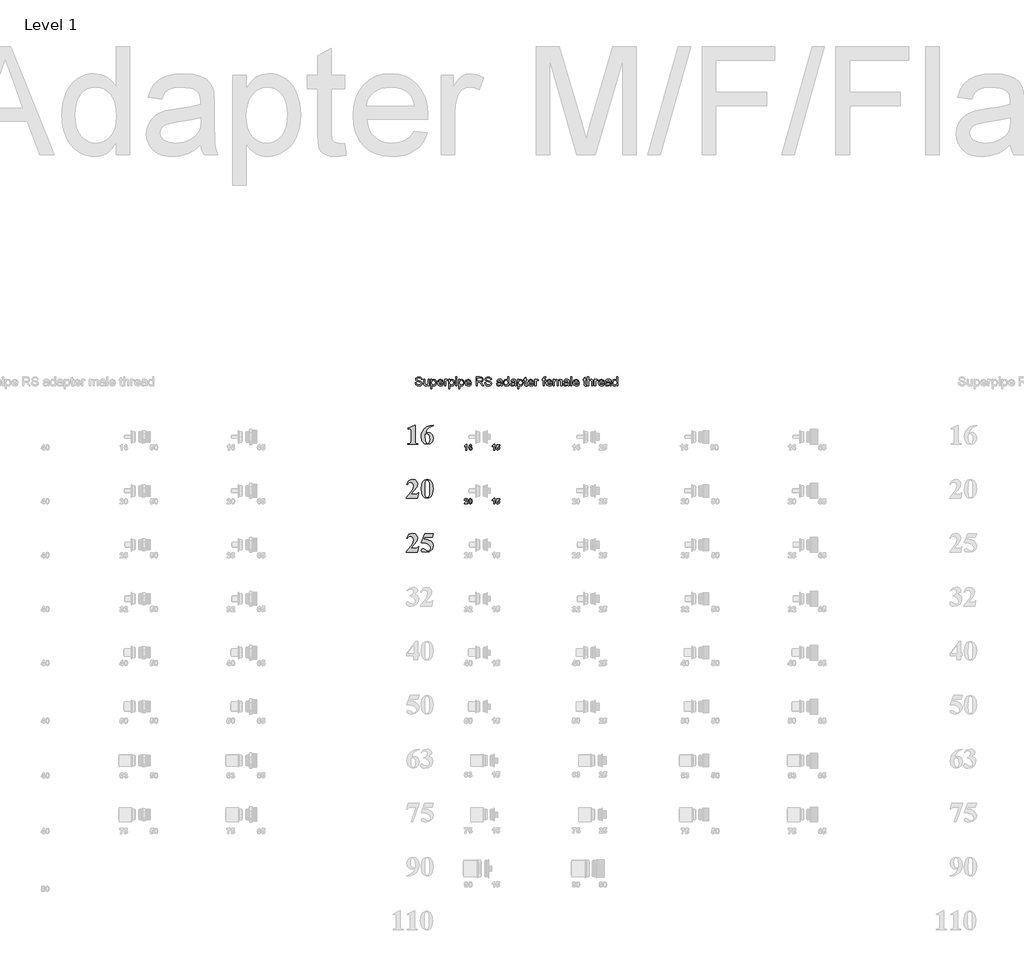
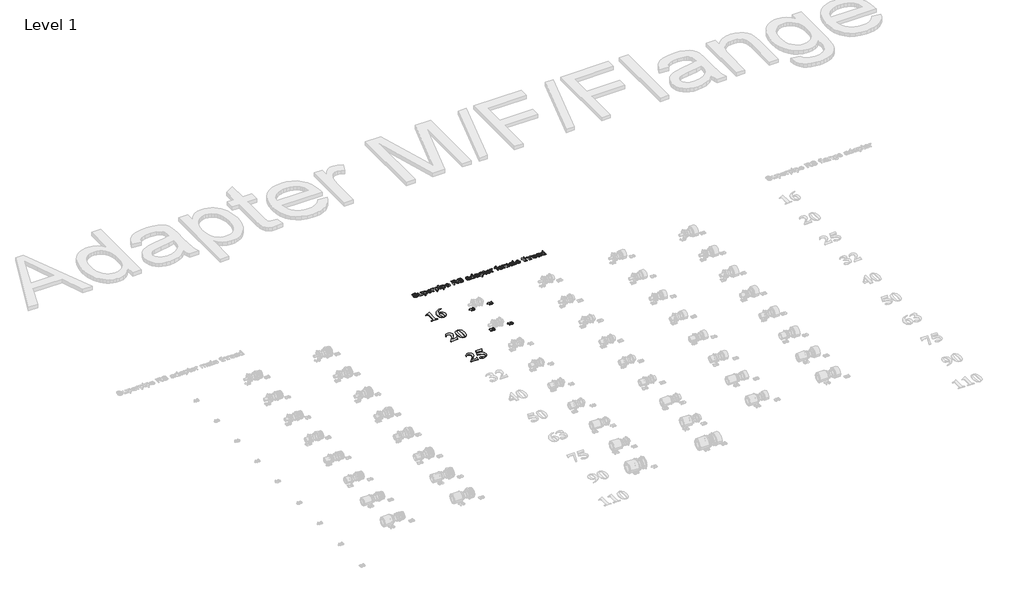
# One storey, part 36 of 57: 8 proxies.
"""IFC4 building model written with IfcOpenShell, lengths in millimetres."""

from ifc_helpers import new_model, si_unit, frame, origin, place, context, project, spatial, polyline, outline, extrude, element, save

model = new_model("IFC4")

# Units and contexts
model_context = context("Model", 3, world=origin())
ifc_project = project(units=[si_unit("LENGTHUNIT", "METRE", prefix="MILLI")], contexts=[model_context])

# Site, building, storey
site = spatial("IfcSite", under=ifc_project)
building = spatial("IfcBuilding", under=site)
storey = spatial("IfcBuildingStorey", under=building, Name="Level 1", Elevation=27.3876384)

# Proxies
placement = place(None, origin())
element("IfcBuildingElementProxy", 1, Name="100mm Arial", ObjectType="100mm Arial", at=placement, inside=storey, context=model_context, shape_type="SweptSolid", body=[
    extrude(outline(polyline([(31328.8058204, 18710.8916255), (31328.8058204, 18627.1351635), (31329.6646513, 18615.4387044), (31333.277194, 18611.2945045), (31342.0836189, 18609.6859006), (31344.510157, 18609.6859006), (31344.510157, 18606.196048), (31288.6725157, 18606.196048), (31288.6725157, 18609.6859006), (31291.4807564, 18609.6859006), (31301.1869089, 18611.1581821), (31305.0993608, 18615.1933242), (31306.1217786, 18627.1351635), (31306.1217786, 18679.4829522), (31305.4674312, 18688.1394225), (31303.0408931, 18691.1248823), (31298.9512221, 18692.3790481), (31289.9812104, 18689.95251), (31288.6725157, 18693.4423626), (31326.3247533, 18710.8916255), (31328.8058204, 18710.8916255)])), frame((0.0, 0.0, 27.3876384), z_axis=(0.0, 0.0, 1.0), x_axis=(1.0, 0.0, 0.0)), (0.0, 0.0, 1.0), 2.0),
    extrude(outline(polyline([(31430.0115453, 18710.8916255), (31430.0115453, 18709.1466992), (31407.9954831, 18700.0676296), (31394.8812715, 18686.5717153), (31387.424438, 18666.91403), (31392.9863906, 18669.4496261), (31402.9651878, 18670.7583208), (31413.5881082, 18668.7032611), (31422.2820671, 18662.5380821), (31428.0791758, 18652.8285215), (31430.0115453, 18640.1403172), (31425.7719197, 18621.8458556), (31413.748287, 18608.9906565), (31397.103326, 18604.4511217), (31379.299625, 18609.6313716), (31366.5398515, 18624.804051), (31361.9594199, 18646.520204), (31364.0621924, 18663.1481247), (31370.37051, 18678.5150634), (31380.5469746, 18691.7519652), (31394.2541886, 18701.989775), (31410.9298221, 18708.5843694), (31430.0115453, 18710.8916255)]), holes=[polyline([(31386.388388, 18661.2975485), (31384.6434617, 18646.1112369), (31386.8382518, 18626.0582168), (31392.8500682, 18612.4668768), (31399.3117484, 18609.6859006), (31406.08697, 18613.7074104), (31409.0724298, 18630.0524621), (31407.7501029, 18647.5698862), (31403.783122, 18658.6801591), (31394.5949945, 18663.7786156), (31386.388388, 18661.2975485)])]), frame((0.0, 0.0, 27.3876384), z_axis=(0.0, 0.0, 1.0), x_axis=(1.0, 0.0, 0.0)), (0.0, 0.0, 1.0), 2.0),
])
element("IfcBuildingElementProxy", 2, Name="100mm Arial", ObjectType="100mm Arial", at=placement, inside=storey, context=model_context, shape_type="SweptSolid", body=[
    extrude(outline(polyline([(31341.8109742, 18306.196048), (31279.9478842, 18306.196048), (31279.9478842, 18307.9409743), (31315.7188732, 18352.5456526), (31321.8261152, 18374.9297852), (31316.6049686, 18388.166687), (31303.8588273, 18393.4423626), (31292.8712446, 18390.5114317), (31284.6646381, 18381.718639), (31281.8563973, 18382.7274246), (31287.1150326, 18395.2281856), (31294.5480097, 18403.9937137), (31303.725913, 18409.1671476), (31314.2193272, 18410.8916255), (31328.7512914, 18407.3063472), (31339.0436301, 18397.4911369), (31342.7652307, 18385.80831), (31337.2578071, 18365.6598643), (31325.2546227, 18349.1171451), (31304.3495878, 18327.1351635), (31326.3247533, 18327.1351635), (31336.8624723, 18327.7349819), (31340.8703498, 18329.7798174), (31345.0009175, 18335.8597949), (31348.0000096, 18335.8597949), (31341.8109742, 18306.196048)])), frame((0.0, 0.0, 27.3876384), z_axis=(0.0, 0.0, 1.0), x_axis=(1.0, 0.0, 0.0)), (0.0, 0.0, 1.0), 2.0),
    extrude(outline(polyline([(31430.0115453, 18357.6713736), (31425.5674362, 18329.0982056), (31418.4514086, 18315.7658781), (31408.3090246, 18307.5047427), (31395.9582182, 18304.4511217), (31382.1760269, 18308.213619), (31371.2838698, 18319.0103504), (31365.3129502, 18332.6425871), (31361.9594199, 18356.4717368), (31366.7852317, 18387.0624758), (31371.7746303, 18397.2491647), (31378.8361289, 18404.7434868), (31395.9582182, 18410.8916255), (31413.0939396, 18404.8252802), (31424.8040309, 18388.5074929), (31430.0115453, 18357.6713736)]), holes=[polyline([(31407.3275035, 18357.6713736), (31406.9730654, 18389.0255179), (31402.8561299, 18403.2303085), (31395.9036892, 18405.6568466), (31390.0690919, 18403.8301269), (31385.7613051, 18394.505677), (31384.6434617, 18347.8561632), (31386.3611236, 18318.6831767), (31390.0554597, 18311.498988), (31396.4217142, 18309.6859006), (31402.8561299, 18312.1124387), (31406.9730654, 18325.1721214), (31407.3275035, 18357.6713736)])]), frame((0.0, 0.0, 27.3876384), z_axis=(0.0, 0.0, 1.0), x_axis=(1.0, 0.0, 0.0)), (0.0, 0.0, 1.0), 2.0),
])
element("IfcBuildingElementProxy", 3, Name="100mm Arial", ObjectType="100mm Arial", at=placement, inside=storey, context=model_context, shape_type="SweptSolid", body=[
    extrude(outline(polyline([(31341.8109742, 18006.196048), (31279.9478842, 18006.196048), (31279.9478842, 18007.9409743), (31315.7188732, 18052.5456526), (31321.8261152, 18074.9297852), (31316.6049686, 18088.166687), (31303.8588273, 18093.4423626), (31292.8712446, 18090.5114317), (31284.6646381, 18081.718639), (31281.8563973, 18082.7274246), (31287.1150326, 18095.2281856), (31294.5480097, 18103.9937137), (31303.725913, 18109.1671476), (31314.2193272, 18110.8916255), (31328.7512914, 18107.3063472), (31339.0436301, 18097.4911369), (31342.7652307, 18085.80831), (31337.2578071, 18065.6598643), (31325.2546227, 18049.1171451), (31304.3495878, 18027.1351635), (31326.3247533, 18027.1351635), (31336.8624723, 18027.7349819), (31340.8703498, 18029.7798174), (31345.0009175, 18035.8597949), (31348.0000096, 18035.8597949), (31341.8109742, 18006.196048)])), frame((0.0, 0.0, 27.3876384), z_axis=(0.0, 0.0, 1.0), x_axis=(1.0, 0.0, 0.0)), (0.0, 0.0, 1.0), 2.0),
    extrude(outline(polyline([(31381.1536091, 18109.1466992), (31430.0115453, 18109.1466992), (31423.0318402, 18088.2075837), (31378.7543355, 18088.2075837), (31375.5643921, 18079.4829522), (31399.8570378, 18075.7068227), (31417.8243258, 18066.3414761), (31426.9647404, 18055.0880647), (31430.0115453, 18041.394483), (31424.3132704, 18022.6910543), (31408.5953015, 18009.0042887), (31386.6065038, 18004.4511217), (31366.7852317, 18009.249669), (31361.9594199, 18016.9655149), (31364.4813837, 18022.8410089), (31370.3568777, 18025.3902372), (31376.4913842, 18024.0815425), (31387.1245288, 18017.1836307), (31395.3038708, 18012.4123479), (31400.729501, 18011.4308268), (31411.5807614, 18015.9976261), (31416.052135, 18026.9715766), (31412.6577081, 18039.0088416), (31402.4744273, 18048.5650395), (31387.1177127, 18054.8017878), (31368.2029843, 18056.8807039), (31361.9594199, 18056.7989104), (31381.1536091, 18109.1466992)])), frame((0.0, 0.0, 27.3876384), z_axis=(0.0, 0.0, 1.0), x_axis=(1.0, 0.0, 0.0)), (0.0, 0.0, 1.0), 2.0),
])
element("IfcBuildingElementProxy", 4, Name="30mm Arial", ObjectType="30mm Arial", at=placement, inside=storey, context=model_context, shape_type="SweptSolid", body=[
    extrude(outline(polyline([(31617.1703597, 18573.5788539), (31611.340306, 18573.5788539), (31611.340306, 18595.4567378), (31604.0527389, 18590.5831773), (31604.0527389, 18596.413231), (31608.9187082, 18599.2713237), (31612.5245357, 18604.1866359), (31617.1703597, 18604.1866359), (31617.1703597, 18573.5788539)])), frame((0.0, 0.0, 27.3876384), z_axis=(0.0, 0.0, 1.0), x_axis=(1.0, 0.0, 0.0)), (0.0, 0.0, 1.0), 2.0),
    extrude(outline(polyline([(31644.8631149, 18596.0640351), (31639.0330612, 18595.4415554), (31638.0006558, 18598.0111819), (31635.8295681, 18598.84242), (31632.8386291, 18597.2292867), (31631.2976123, 18590.4541266), (31636.6266458, 18593.0123663), (31642.7869174, 18590.2795286), (31645.3489527, 18583.2272892), (31642.7299832, 18575.8676055), (31635.9965749, 18573.0930161), (31628.754555, 18576.67607), (31625.9154403, 18588.4196808), (31628.8798101, 18600.4897138), (31636.5810985, 18604.1866359), (31642.0847299, 18602.1066428), (31644.8631149, 18596.0640351)]), holes=[polyline([(31631.745494, 18583.3563398), (31633.0056358, 18579.7163519), (31635.8827066, 18578.437232), (31638.4789024, 18579.4848198), (31639.518899, 18582.9236405), (31638.3991946, 18586.5256724), (31635.6018316, 18587.6681504), (31632.8651983, 18586.5750153), (31631.745494, 18583.3563398)])]), frame((0.0, 0.0, 27.3876384), z_axis=(0.0, 0.0, 1.0), x_axis=(1.0, 0.0, 0.0)), (0.0, 0.0, 1.0), 2.0),
])
element("IfcBuildingElementProxy", 5, Name="30mm Arial", ObjectType="30mm Arial", at=placement, inside=storey, context=model_context, shape_type="SweptSolid", body=[
    extrude(outline(polyline([(31770.9203597, 18573.5788539), (31765.090306, 18573.5788539), (31765.090306, 18595.4567378), (31757.8027389, 18590.5831773), (31757.8027389, 18596.413231), (31762.6687082, 18599.2713237), (31766.2745357, 18604.1866359), (31770.9203597, 18604.1866359), (31770.9203597, 18573.5788539)])), frame((0.0, 0.0, 27.3876384), z_axis=(0.0, 0.0, 1.0), x_axis=(1.0, 0.0, 0.0)), (0.0, 0.0, 1.0), 2.0),
    extrude(outline(polyline([(31779.6654403, 18582.1948838), (31785.0096562, 18582.8097723), (31786.4975345, 18579.6138705), (31789.3518316, 18578.437232), (31792.4756169, 18579.685987), (31793.7547368, 18583.4474344), (31792.5667115, 18586.9773498), (31789.4732911, 18588.1539882), (31785.2070278, 18585.7247992), (31780.1512781, 18586.4763295), (31783.5521428, 18603.7007981), (31798.1272771, 18603.7007981), (31798.1272771, 18597.8707444), (31788.2662878, 18597.8707444), (31787.0896493, 18592.3063832), (31790.8473011, 18593.4982041), (31797.0417332, 18590.7387972), (31799.5847905, 18583.5764851), (31797.4668413, 18577.0252659), (31789.4429262, 18573.0930161), (31782.7588607, 18575.5601612), (31779.6654403, 18582.1948838)])), frame((0.0, 0.0, 27.3876384), z_axis=(0.0, 0.0, 1.0), x_axis=(1.0, 0.0, 0.0)), (0.0, 0.0, 1.0), 2.0),
])
element("IfcBuildingElementProxy", 6, Name="30mm Arial", ObjectType="30mm Arial", at=placement, inside=storey, context=model_context, shape_type="SweptSolid", body=[
    extrude(outline(polyline([(31622.0287378, 18279.4089076), (31622.0287378, 18273.5788539), (31602.5952254, 18273.5788539), (31604.4550733, 18279.298835), (31610.566002, 18286.4687383), (31615.0751842, 18291.3574813), (31616.1986841, 18294.864623), (31615.2535777, 18297.8138103), (31612.6459951, 18298.84242), (31610.0346169, 18297.8289927), (31608.911117, 18294.4698797), (31603.0810633, 18295.0012648), (31606.2086442, 18302.0497087), (31612.7750458, 18304.1866359), (31619.5615927, 18301.7916074), (31622.0287378, 18295.8362986), (31621.3531196, 18291.979961), (31619.2123968, 18288.146397), (31615.5875912, 18284.3204243), (31612.2588431, 18281.003063), (31611.1657081, 18279.4089076), (31622.0287378, 18279.4089076)])), frame((0.0, 0.0, 27.3876384), z_axis=(0.0, 0.0, 1.0), x_axis=(1.0, 0.0, 0.0)), (0.0, 0.0, 1.0), 2.0),
    extrude(outline(polyline([(31635.6321965, 18304.1866359), (31642.4263346, 18301.0286902), (31645.3489527, 18288.6322348), (31642.4111522, 18276.2054146), (31635.6321965, 18273.0930161), (31628.5913439, 18276.5090632), (31625.9154403, 18288.6929645), (31628.8532408, 18301.0742375), (31635.6321965, 18304.1866359)]), holes=[polyline([(31635.6321965, 18298.84242), (31633.6888453, 18298.2009623), (31632.3679737, 18295.8970283), (31631.745494, 18288.6322348), (31632.2996528, 18281.6141558), (31633.7002321, 18279.0710985), (31635.6321965, 18278.437232), (31637.5755477, 18279.0786898), (31638.8964193, 18281.3826237), (31639.518899, 18288.6322348), (31638.9647402, 18295.6465182), (31637.5641609, 18298.2009623), (31635.6321965, 18298.84242)])]), frame((0.0, 0.0, 27.3876384), z_axis=(0.0, 0.0, 1.0), x_axis=(1.0, 0.0, 0.0)), (0.0, 0.0, 1.0), 2.0),
])
element("IfcBuildingElementProxy", 7, Name="30mm Arial", ObjectType="30mm Arial", at=placement, inside=storey, context=model_context, shape_type="SweptSolid", body=[
    extrude(outline(polyline([(31770.9203597, 18273.5788539), (31765.090306, 18273.5788539), (31765.090306, 18295.4567378), (31757.8027389, 18290.5831773), (31757.8027389, 18296.413231), (31762.6687082, 18299.2713237), (31766.2745357, 18304.1866359), (31770.9203597, 18304.1866359), (31770.9203597, 18273.5788539)])), frame((0.0, 0.0, 27.3876384), z_axis=(0.0, 0.0, 1.0), x_axis=(1.0, 0.0, 0.0)), (0.0, 0.0, 1.0), 2.0),
    extrude(outline(polyline([(31779.6654403, 18282.1948838), (31785.0096562, 18282.8097723), (31786.4975345, 18279.6138705), (31789.3518316, 18278.437232), (31792.4756169, 18279.685987), (31793.7547368, 18283.4474344), (31792.5667115, 18286.9773498), (31789.4732911, 18288.1539882), (31785.2070278, 18285.7247992), (31780.1512781, 18286.4763295), (31783.5521428, 18303.7007981), (31798.1272771, 18303.7007981), (31798.1272771, 18297.8707444), (31788.2662878, 18297.8707444), (31787.0896493, 18292.3063832), (31790.8473011, 18293.4982041), (31797.0417332, 18290.7387972), (31799.5847905, 18283.5764851), (31797.4668413, 18277.0252659), (31789.4429262, 18273.0930161), (31782.7588607, 18275.5601612), (31779.6654403, 18282.1948838)])), frame((0.0, 0.0, 27.3876384), z_axis=(0.0, 0.0, 1.0), x_axis=(1.0, 0.0, 0.0)), (0.0, 0.0, 1.0), 2.0),
])
element("IfcBuildingElementProxy", 8, Name="50mm Arial", ObjectType="50mm Arial", at=placement, inside=storey, context=model_context, shape_type="SweptSolid", body=[
    extrude(outline(polyline([(31329.6871322, 18946.7630144), (31335.9656516, 18946.7630144), (31337.9890026, 18940.4783637), (31342.930884, 18936.5052381), (31350.4602022, 18934.9907906), (31357.0207645, 18936.1373562), (31361.2575388, 18939.2888786), (31362.649359, 18943.5011274), (31361.6070267, 18947.4190707), (31357.3395955, 18950.2701561), (31348.1977279, 18952.6675205), (31338.3568846, 18955.7638606), (31333.0164643, 18960.4359619), (31331.2567621, 18966.6776931), (31333.4333972, 18973.783947), (31339.7916244, 18978.7994049), (31349.0990388, 18980.5100561), (31359.0318527, 18978.7196971), (31365.6537286, 18973.4589846), (31368.1430635, 18965.5985726), (31361.8645441, 18965.5985726), (31358.3083514, 18972.0487702), (31349.3442935, 18974.2315368), (31340.3557101, 18972.0732957), (31337.5352815, 18966.8616341), (31339.534107, 18962.5083638), (31349.7857519, 18959.0012222), (31360.8957881, 18955.8496997), (31366.9719724, 18950.7606655), (31368.9278784, 18943.660543), (31366.6776668, 18936.1496189), (31360.2029437, 18930.6681772), (31350.7054569, 18928.7122712), (31339.4911874, 18930.8214613), (31332.3971963, 18937.1735571), (31329.6871322, 18946.7630144)])), frame((0.0, 0.0, 27.3876384), z_axis=(0.0, 0.0, 1.0), x_axis=(1.0, 0.0, 0.0)), (0.0, 0.0, 1.0), 2.0),
    extrude(outline(polyline([(31401.1052902, 18929.4970861), (31401.1052902, 18935.8369192), (31396.1879342, 18930.4934332), (31389.7745248, 18928.7122712), (31383.8700187, 18929.96307), (31379.7987913, 18933.1023297), (31377.9287245, 18937.7253801), (31377.5608425, 18943.5624411), (31377.5608425, 18966.3833875), (31383.8393619, 18966.3833875), (31383.8393619, 18946.5177598), (31384.2195066, 18940.1166131), (31386.7027101, 18936.3580853), (31391.3809428, 18934.9907906), (31396.6232612, 18936.3887422), (31400.0874834, 18940.1963208), (31401.1052902, 18947.1922101), (31401.1052902, 18966.3833875), (31407.3838096, 18966.3833875), (31407.3838096, 18929.4970861), (31401.1052902, 18929.4970861)])), frame((0.0, 0.0, 27.3876384), z_axis=(0.0, 0.0, 1.0), x_axis=(1.0, 0.0, 0.0)), (0.0, 0.0, 1.0), 2.0),
    extrude(outline(polyline([(31416.0167738, 18915.3704175), (31416.0167738, 18966.3833875), (31422.2952931, 18966.3833875), (31422.2952931, 18960.2274955), (31426.6363007, 18965.4330257), (31432.4978871, 18967.1682024), (31440.456401, 18964.7401813), (31445.6557998, 18957.8975762), (31447.4093707, 18948.2222797), (31445.4289393, 18938.0503425), (31439.6777174, 18931.1218983), (31431.7375977, 18928.7122712), (31426.2745501, 18930.3248206), (31422.2952931, 18934.4021794), (31422.2952931, 18915.3704175), (31416.0167738, 18915.3704175)]), holes=[polyline([(31422.2952931, 18947.6459312), (31425.0114885, 18938.0809994), (31431.6027076, 18934.9907906), (31438.3288168, 18938.191364), (31441.1308513, 18948.1119151), (31438.3962618, 18957.7013724), (31431.860225, 18960.8896831), (31425.1954295, 18957.4990373), (31422.2952931, 18947.6459312)])]), frame((0.0, 0.0, 27.3876384), z_axis=(0.0, 0.0, 1.0), x_axis=(1.0, 0.0, 0.0)), (0.0, 0.0, 1.0), 2.0),
    extrude(outline(polyline([(31480.298021, 18940.4844951), (31486.4539131, 18939.6996801), (31480.6965599, 18931.5940135), (31469.9727997, 18928.7122712), (31456.9375144, 18933.6848095), (31452.1182602, 18947.6336685), (31456.9865653, 18962.04238), (31469.6171805, 18967.1682024), (31481.886045, 18962.0546427), (31486.6501168, 18947.6704567), (31486.6133286, 18945.9781995), (31458.3967796, 18945.9781995), (31462.0081545, 18937.823482), (31470.095427, 18934.9907906), (31476.2513191, 18936.3029031), (31480.298021, 18940.4844951)]), holes=[polyline([(31458.3967796, 18952.2567189), (31480.3715974, 18952.2567189), (31477.8577371, 18957.9466271), (31469.592655, 18960.8896831), (31461.8610017, 18958.5413697), (31458.3967796, 18952.2567189)])]), frame((0.0, 0.0, 27.3876384), z_axis=(0.0, 0.0, 1.0), x_axis=(1.0, 0.0, 0.0)), (0.0, 0.0, 1.0), 2.0),
    extrude(outline(polyline([(31492.9286362, 18929.4970861), (31492.9286362, 18966.3833875), (31498.4223407, 18966.3833875), (31498.4223407, 18960.9264713), (31502.3218898, 18965.9541919), (31506.2459644, 18967.1682024), (31512.5490093, 18965.2306906), (31510.4520819, 18959.6020961), (31506.037498, 18960.8896831), (31502.4874367, 18959.651147), (31500.2249625, 18956.2175817), (31499.2071556, 18948.8844673), (31499.2071556, 18929.4970861), (31492.9286362, 18929.4970861)])), frame((0.0, 0.0, 27.3876384), z_axis=(0.0, 0.0, 1.0), x_axis=(1.0, 0.0, 0.0)), (0.0, 0.0, 1.0), 2.0),
    extrude(outline(polyline([(31516.4730839, 18915.3704175), (31516.4730839, 18966.3833875), (31522.7516033, 18966.3833875), (31522.7516033, 18960.2274955), (31527.0926108, 18965.4330257), (31532.9541973, 18967.1682024), (31540.9127111, 18964.7401813), (31546.11211, 18957.8975762), (31547.8656808, 18948.2222797), (31545.8852494, 18938.0503425), (31540.1340276, 18931.1218983), (31532.1939078, 18928.7122712), (31526.7308602, 18930.3248206), (31522.7516033, 18934.4021794), (31522.7516033, 18915.3704175), (31516.4730839, 18915.3704175)]), holes=[polyline([(31522.7516033, 18947.6459312), (31525.4677987, 18938.0809994), (31532.0590178, 18934.9907906), (31538.7851269, 18938.191364), (31541.5871614, 18948.1119151), (31538.8525719, 18957.7013724), (31532.3165352, 18960.8896831), (31525.6517397, 18957.4990373), (31522.7516033, 18947.6459312)])]), frame((0.0, 0.0, 27.3876384), z_axis=(0.0, 0.0, 1.0), x_axis=(1.0, 0.0, 0.0)), (0.0, 0.0, 1.0), 2.0),
    extrude(outline(polyline([(31554.9290151, 18929.4970861), (31554.9290151, 18966.3833875), (31561.2075345, 18966.3833875), (31561.2075345, 18929.4970861), (31554.9290151, 18929.4970861)])), frame((0.0, 0.0, 27.3876384), z_axis=(0.0, 0.0, 1.0), x_axis=(1.0, 0.0, 0.0)), (0.0, 0.0, 1.0), 2.0),
    extrude(outline(polyline([(31554.9290151, 18973.4467218), (31554.9290151, 18979.7252412), (31561.2075345, 18979.7252412), (31561.2075345, 18973.4467218), (31554.9290151, 18973.4467218)])), frame((0.0, 0.0, 27.3876384), z_axis=(0.0, 0.0, 1.0), x_axis=(1.0, 0.0, 0.0)), (0.0, 0.0, 1.0), 2.0),
    extrude(outline(polyline([(31570.6253136, 18915.3704175), (31570.6253136, 18966.3833875), (31576.903833, 18966.3833875), (31576.903833, 18960.2274955), (31581.2448405, 18965.4330257), (31587.106427, 18967.1682024), (31595.0649408, 18964.7401813), (31600.2643397, 18957.8975762), (31602.0179105, 18948.2222797), (31600.0374791, 18938.0503425), (31594.2862573, 18931.1218983), (31586.3461375, 18928.7122712), (31580.8830899, 18930.3248206), (31576.903833, 18934.4021794), (31576.903833, 18915.3704175), (31570.6253136, 18915.3704175)]), holes=[polyline([(31576.903833, 18947.6459312), (31579.6200284, 18938.0809994), (31586.2112475, 18934.9907906), (31592.9373566, 18938.191364), (31595.7393911, 18948.1119151), (31593.0048016, 18957.7013724), (31586.4687649, 18960.8896831), (31579.8039694, 18957.4990373), (31576.903833, 18947.6459312)])]), frame((0.0, 0.0, 27.3876384), z_axis=(0.0, 0.0, 1.0), x_axis=(1.0, 0.0, 0.0)), (0.0, 0.0, 1.0), 2.0),
    extrude(outline(polyline([(31634.9065609, 18940.4844951), (31641.0624529, 18939.6996801), (31635.3050997, 18931.5940135), (31624.5813396, 18928.7122712), (31611.5460542, 18933.6848095), (31606.7268001, 18947.6336685), (31611.5951051, 18962.04238), (31624.2257203, 18967.1682024), (31636.4945848, 18962.0546427), (31641.2586567, 18947.6704567), (31641.2218685, 18945.9781995), (31613.0053194, 18945.9781995), (31616.6166944, 18937.823482), (31624.7039669, 18934.9907906), (31630.8598589, 18936.3029031), (31634.9065609, 18940.4844951)]), holes=[polyline([(31613.0053194, 18952.2567189), (31634.9801373, 18952.2567189), (31632.466277, 18957.9466271), (31624.2011948, 18960.8896831), (31616.4695416, 18958.5413697), (31613.0053194, 18952.2567189)])]), frame((0.0, 0.0, 27.3876384), z_axis=(0.0, 0.0, 1.0), x_axis=(1.0, 0.0, 0.0)), (0.0, 0.0, 1.0), 2.0),
    extrude(outline(polyline([(31667.9423641, 18929.4970861), (31667.9423641, 18979.7252412), (31689.5860881, 18979.7252412), (31699.6353979, 18978.3702092), (31705.1291024, 18973.5754805), (31707.1831102, 18965.9787173), (31703.7802018, 18956.9288202), (31693.2649081, 18952.2567189), (31696.8333634, 18949.5711803), (31701.9223977, 18943.10872), (31710.2978444, 18929.4970861), (31703.0015182, 18929.4970861), (31696.4654814, 18939.9081466), (31691.7443291, 18946.7998026), (31688.4272598, 18950.0555583), (31685.4412843, 18951.2511748), (31681.7992525, 18951.471904), (31674.2208834, 18951.471904), (31674.2208834, 18929.4970861), (31667.9423641, 18929.4970861)]), holes=[polyline([(31674.2208834, 18957.7504234), (31688.2739757, 18957.7504234), (31695.4415432, 18958.6394715), (31699.5127706, 18961.4844256), (31700.9045908, 18965.7457254), (31698.2497091, 18971.2762181), (31689.8558682, 18973.4467218), (31674.2208834, 18973.4467218), (31674.2208834, 18957.7504234)])]), frame((0.0, 0.0, 27.3876384), z_axis=(0.0, 0.0, 1.0), x_axis=(1.0, 0.0, 0.0)), (0.0, 0.0, 1.0), 2.0),
    extrude(outline(polyline([(31715.8160744, 18946.7630144), (31722.0945937, 18946.7630144), (31724.1179447, 18940.4783637), (31729.0598262, 18936.5052381), (31736.5891444, 18934.9907906), (31743.1497066, 18936.1373562), (31747.3864809, 18939.2888786), (31748.7783011, 18943.5011274), (31747.7359688, 18947.4190707), (31743.4685377, 18950.2701561), (31734.3266701, 18952.6675205), (31724.4858267, 18955.7638606), (31719.1454064, 18960.4359619), (31717.3857042, 18966.6776931), (31719.5623393, 18973.783947), (31725.9205665, 18978.7994049), (31735.227981, 18980.5100561), (31745.1607948, 18978.7196971), (31751.7826708, 18973.4589846), (31754.2720056, 18965.5985726), (31747.9934862, 18965.5985726), (31744.4372936, 18972.0487702), (31735.4732356, 18974.2315368), (31726.4846522, 18972.0732957), (31723.6642236, 18966.8616341), (31725.6630491, 18962.5083638), (31735.914694, 18959.0012222), (31747.0247303, 18955.8496997), (31753.1009146, 18950.7606655), (31755.0568205, 18943.660543), (31752.806609, 18936.1496189), (31746.3318859, 18930.6681772), (31736.834399, 18928.7122712), (31725.6201295, 18930.8214613), (31718.5261384, 18937.1735571), (31715.8160744, 18946.7630144)])), frame((0.0, 0.0, 27.3876384), z_axis=(0.0, 0.0, 1.0), x_axis=(1.0, 0.0, 0.0)), (0.0, 0.0, 1.0), 2.0),
    extrude(outline(polyline([(31806.8546054, 18934.2059757), (31800.7661584, 18929.9508073), (31794.0400493, 18928.7122712), (31784.9227072, 18931.6921154), (31781.7405279, 18939.3072727), (31782.9422757, 18944.2736796), (31786.0999295, 18947.8789232), (31790.4961194, 18949.9390623), (31795.9285102, 18950.8832928), (31806.8178172, 18953.0415338), (31805.1255601, 18959.0747986), (31798.1848531, 18960.8896831), (31791.8327573, 18959.6818038), (31788.8038622, 18955.3959786), (31782.5253428, 18956.1807935), (31785.2415382, 18962.3121601), (31790.7107172, 18965.9051409), (31798.9941935, 18967.1682024), (31806.6032194, 18966.0522937), (31810.9013074, 18963.2502592), (31812.8265565, 18958.9889594), (31813.1331248, 18953.495255), (31813.1331248, 18945.6838939), (31813.4519559, 18934.7761928), (31814.7027547, 18929.4970861), (31808.4242353, 18929.4970861), (31806.8546054, 18934.2059757)]), holes=[polyline([(31806.8546054, 18946.7630144), (31796.7255878, 18944.8377653), (31791.3238539, 18943.8199585), (31788.8774386, 18942.1644895), (31788.0190473, 18939.7487311), (31789.8891141, 18936.351954), (31795.3766872, 18934.9907906), (31801.728783, 18936.4929754), (31805.8245358, 18940.1288758), (31806.8178172, 18944.9849181), (31806.8546054, 18946.7630144)])]), frame((0.0, 0.0, 27.3876384), z_axis=(0.0, 0.0, 1.0), x_axis=(1.0, 0.0, 0.0)), (0.0, 0.0, 1.0), 2.0),
    extrude(outline(polyline([(31844.5257217, 18929.4970861), (31844.5257217, 18935.4199863), (31840.3717209, 18930.3892), (31834.6296961, 18928.7122712), (31826.8551232, 18931.1402924), (31821.3614188, 18937.9154525), (31819.4116442, 18947.9034486), (31821.2081346, 18957.8975762), (31826.5914745, 18964.7769695), (31834.6051706, 18967.1682024), (31840.3931807, 18965.4575512), (31844.5257217, 18961.0123104), (31844.5257217, 18979.7252412), (31850.8042411, 18979.7252412), (31850.8042411, 18929.4970861), (31844.5257217, 18929.4970861)]), holes=[polyline([(31825.6901636, 18947.9279741), (31828.5228549, 18938.2097581), (31835.2060445, 18934.9907906), (31841.8095263, 18938.0626053), (31844.5257217, 18947.4497275), (31841.7604754, 18957.6400588), (31834.9485271, 18960.8896831), (31828.338914, 18957.7688175), (31825.6901636, 18947.9279741)])]), frame((0.0, 0.0, 27.3876384), z_axis=(0.0, 0.0, 1.0), x_axis=(1.0, 0.0, 0.0)), (0.0, 0.0, 1.0), 2.0),
    extrude(outline(polyline([(31883.7664679, 18934.2059757), (31877.6780209, 18929.9508073), (31870.9519117, 18928.7122712), (31861.8345696, 18931.6921154), (31858.6523904, 18939.3072727), (31859.8541382, 18944.2736796), (31863.011792, 18947.8789232), (31867.4079818, 18949.9390623), (31872.8403726, 18950.8832928), (31883.7296797, 18953.0415338), (31882.0374225, 18959.0747986), (31875.0967155, 18960.8896831), (31868.7446198, 18959.6818038), (31865.7157247, 18955.3959786), (31859.4372053, 18956.1807935), (31862.1534007, 18962.3121601), (31867.6225797, 18965.9051409), (31875.9060559, 18967.1682024), (31883.5150819, 18966.0522937), (31887.8131698, 18963.2502592), (31889.7384189, 18958.9889594), (31890.0449873, 18953.495255), (31890.0449873, 18945.6838939), (31890.3638183, 18934.7761928), (31891.6146171, 18929.4970861), (31885.3360977, 18929.4970861), (31883.7664679, 18934.2059757)]), holes=[polyline([(31883.7664679, 18946.7630144), (31873.6374503, 18944.8377653), (31868.2357163, 18943.8199585), (31865.7893011, 18942.1644895), (31864.9309097, 18939.7487311), (31866.8009765, 18936.351954), (31872.2885496, 18934.9907906), (31878.6406454, 18936.4929754), (31882.7363983, 18940.1288758), (31883.7296797, 18944.9849181), (31883.7664679, 18946.7630144)])]), frame((0.0, 0.0, 27.3876384), z_axis=(0.0, 0.0, 1.0), x_axis=(1.0, 0.0, 0.0)), (0.0, 0.0, 1.0), 2.0),
    extrude(outline(polyline([(31898.6779514, 18915.3704175), (31898.6779514, 18966.3833875), (31904.9564708, 18966.3833875), (31904.9564708, 18960.2274955), (31909.2974784, 18965.4330257), (31915.1590648, 18967.1682024), (31923.1175786, 18964.7401813), (31928.3169775, 18957.8975762), (31930.0705484, 18948.2222797), (31928.0901169, 18938.0503425), (31922.3388951, 18931.1218983), (31914.3987754, 18928.7122712), (31908.9357277, 18930.3248206), (31904.9564708, 18934.4021794), (31904.9564708, 18915.3704175), (31898.6779514, 18915.3704175)]), holes=[polyline([(31904.9564708, 18947.6459312), (31907.6726662, 18938.0809994), (31914.2638853, 18934.9907906), (31920.9899944, 18938.191364), (31923.792029, 18948.1119151), (31921.0574395, 18957.7013724), (31914.5214027, 18960.8896831), (31907.8566072, 18957.4990373), (31904.9564708, 18947.6459312)])]), frame((0.0, 0.0, 27.3876384), z_axis=(0.0, 0.0, 1.0), x_axis=(1.0, 0.0, 0.0)), (0.0, 0.0, 1.0), 2.0),
    extrude(outline(polyline([(31950.4757363, 18934.7332732), (31951.2605513, 18929.3131451), (31946.5639245, 18928.7122712), (31941.3032119, 18929.7546035), (31938.678987, 18932.489193), (31937.9186976, 18939.613841), (31937.9186976, 18960.1048681), (31933.209808, 18960.1048681), (31933.209808, 18966.3833875), (31937.9186976, 18966.3833875), (31937.9186976, 18975.3474455), (31944.197217, 18979.0385282), (31944.197217, 18966.3833875), (31950.4757363, 18966.3833875), (31950.4757363, 18960.1048681), (31944.197217, 18960.1048681), (31944.197217, 18939.797782), (31944.5283108, 18936.5604204), (31947.7411469, 18934.9907906), (31950.4757363, 18934.7332732)])), frame((0.0, 0.0, 27.3876384), z_axis=(0.0, 0.0, 1.0), x_axis=(1.0, 0.0, 0.0)), (0.0, 0.0, 1.0), 2.0),
    extrude(outline(polyline([(31982.5795718, 18940.4844951), (31988.7354638, 18939.6996801), (31982.9781106, 18931.5940135), (31972.2543505, 18928.7122712), (31959.2190651, 18933.6848095), (31954.399811, 18947.6336685), (31959.268116, 18962.04238), (31971.8987312, 18967.1682024), (31984.1675957, 18962.0546427), (31988.9316676, 18947.6704567), (31988.8948794, 18945.9781995), (31960.6783303, 18945.9781995), (31964.2897053, 18937.823482), (31972.3769778, 18934.9907906), (31978.5328698, 18936.3029031), (31982.5795718, 18940.4844951)]), holes=[polyline([(31960.6783303, 18952.2567189), (31982.6531482, 18952.2567189), (31980.1392879, 18957.9466271), (31971.8742057, 18960.8896831), (31964.1425525, 18958.5413697), (31960.6783303, 18952.2567189)])]), frame((0.0, 0.0, 27.3876384), z_axis=(0.0, 0.0, 1.0), x_axis=(1.0, 0.0, 0.0)), (0.0, 0.0, 1.0), 2.0),
    extrude(outline(polyline([(31995.210187, 18929.4970861), (31995.210187, 18966.3833875), (32000.7038914, 18966.3833875), (32000.7038914, 18960.9264713), (32004.6034406, 18965.9541919), (32008.5275152, 18967.1682024), (32014.83056, 18965.2306906), (32012.7336327, 18959.6020961), (32008.3190487, 18960.8896831), (32004.7689875, 18959.651147), (32002.5065132, 18956.2175817), (32001.4887063, 18948.8844673), (32001.4887063, 18929.4970861), (31995.210187, 18929.4970861)])), frame((0.0, 0.0, 27.3876384), z_axis=(0.0, 0.0, 1.0), x_axis=(1.0, 0.0, 0.0)), (0.0, 0.0, 1.0), 2.0),
    extrude(outline(polyline([(32039.9446376, 18929.4970861), (32039.9446376, 18960.1048681), (32034.4509331, 18960.1048681), (32034.4509331, 18966.3833875), (32039.9446376, 18966.3833875), (32039.9446376, 18970.0989957), (32040.6068252, 18975.3351827), (32043.8196613, 18979.0753164), (32050.1472316, 18980.5100561), (32055.873928, 18979.8233431), (32054.954223, 18973.9372312), (32051.3367167, 18974.2315368), (32047.3819852, 18973.1892044), (32046.223157, 18969.301918), (32046.223157, 18966.3833875), (32053.2864913, 18966.3833875), (32053.2864913, 18960.1048681), (32046.223157, 18960.1048681), (32046.223157, 18929.4970861), (32039.9446376, 18929.4970861)])), frame((0.0, 0.0, 27.3876384), z_axis=(0.0, 0.0, 1.0), x_axis=(1.0, 0.0, 0.0)), (0.0, 0.0, 1.0), 2.0),
    extrude(outline(polyline([(32084.6055118, 18940.4844951), (32090.7614038, 18939.6996801), (32085.0040506, 18931.5940135), (32074.2802905, 18928.7122712), (32061.2450051, 18933.6848095), (32056.425751, 18947.6336685), (32061.294056, 18962.04238), (32073.9246712, 18967.1682024), (32086.1935357, 18962.0546427), (32090.9576076, 18947.6704567), (32090.9208194, 18945.9781995), (32062.7042703, 18945.9781995), (32066.3156453, 18937.823482), (32074.4029178, 18934.9907906), (32080.5588098, 18936.3029031), (32084.6055118, 18940.4844951)]), holes=[polyline([(32062.7042703, 18952.2567189), (32084.6790882, 18952.2567189), (32082.1652279, 18957.9466271), (32073.9001457, 18960.8896831), (32066.1684925, 18958.5413697), (32062.7042703, 18952.2567189)])]), frame((0.0, 0.0, 27.3876384), z_axis=(0.0, 0.0, 1.0), x_axis=(1.0, 0.0, 0.0)), (0.0, 0.0, 1.0), 2.0),
    extrude(outline(polyline([(32097.236127, 18929.4970861), (32097.236127, 18966.3833875), (32103.5146463, 18966.3833875), (32103.5146463, 18960.3133346), (32107.8311284, 18965.2858729), (32113.9747577, 18967.1682024), (32120.2655399, 18965.2490847), (32123.7236306, 18959.8718762), (32128.6225925, 18965.3441209), (32134.8091414, 18967.1682024), (32143.0190413, 18964.133176), (32145.8946522, 18954.7828419), (32145.8946522, 18929.4970861), (32139.6161328, 18929.4970861), (32139.6161328, 18952.0850406), (32139.033653, 18957.3273591), (32136.9244629, 18959.9086644), (32133.3376134, 18960.8896831), (32127.1633273, 18958.3758228), (32124.7046493, 18950.3192071), (32124.7046493, 18929.4970861), (32118.4261299, 18929.4970861), (32118.4261299, 18952.7840164), (32116.972996, 18958.8663321), (32112.2089242, 18960.8896831), (32107.5613483, 18959.5407824), (32104.4711395, 18955.5921823), (32103.5146463, 18948.0996524), (32103.5146463, 18929.4970861), (32097.236127, 18929.4970861)])), frame((0.0, 0.0, 27.3876384), z_axis=(0.0, 0.0, 1.0), x_axis=(1.0, 0.0, 0.0)), (0.0, 0.0, 1.0), 2.0),
    extrude(outline(polyline([(32178.856879, 18934.2059757), (32172.7684319, 18929.9508073), (32166.0423228, 18928.7122712), (32156.9249807, 18931.6921154), (32153.7428014, 18939.3072727), (32154.9445493, 18944.2736796), (32158.1022031, 18947.8789232), (32162.4983929, 18949.9390623), (32167.9307837, 18950.8832928), (32178.8200908, 18953.0415338), (32177.1278336, 18959.0747986), (32170.1871266, 18960.8896831), (32163.8350308, 18959.6818038), (32160.8061357, 18955.3959786), (32154.5276163, 18956.1807935), (32157.2438117, 18962.3121601), (32162.7129907, 18965.9051409), (32170.996467, 18967.1682024), (32178.6054929, 18966.0522937), (32182.9035809, 18963.2502592), (32184.82883, 18958.9889594), (32185.1353983, 18953.495255), (32185.1353983, 18945.6838939), (32185.4542294, 18934.7761928), (32186.7050282, 18929.4970861), (32180.4265088, 18929.4970861), (32178.856879, 18934.2059757)]), holes=[polyline([(32178.856879, 18946.7630144), (32168.7278614, 18944.8377653), (32163.3261274, 18943.8199585), (32160.8797121, 18942.1644895), (32160.0213208, 18939.7487311), (32161.8913876, 18936.351954), (32167.3789607, 18934.9907906), (32173.7310565, 18936.4929754), (32177.8268094, 18940.1288758), (32178.8200908, 18944.9849181), (32178.856879, 18946.7630144)])]), frame((0.0, 0.0, 27.3876384), z_axis=(0.0, 0.0, 1.0), x_axis=(1.0, 0.0, 0.0)), (0.0, 0.0, 1.0), 2.0),
    extrude(outline(polyline([(32193.7683625, 18929.4970861), (32193.7683625, 18979.7252412), (32200.0468819, 18979.7252412), (32200.0468819, 18929.4970861), (32193.7683625, 18929.4970861)])), frame((0.0, 0.0, 27.3876384), z_axis=(0.0, 0.0, 1.0), x_axis=(1.0, 0.0, 0.0)), (0.0, 0.0, 1.0), 2.0),
    extrude(outline(polyline([(32235.289977, 18940.4844951), (32241.4458691, 18939.6996801), (32235.6885158, 18931.5940135), (32224.9647557, 18928.7122712), (32211.9294703, 18933.6848095), (32207.1102162, 18947.6336685), (32211.9785213, 18962.04238), (32224.6091364, 18967.1682024), (32236.878001, 18962.0546427), (32241.6420728, 18947.6704567), (32241.6052846, 18945.9781995), (32213.3887356, 18945.9781995), (32217.0001105, 18937.823482), (32225.087383, 18934.9907906), (32231.2432751, 18936.3029031), (32235.289977, 18940.4844951)]), holes=[polyline([(32213.3887356, 18952.2567189), (32235.3635534, 18952.2567189), (32232.8496931, 18957.9466271), (32224.584611, 18960.8896831), (32216.8529577, 18958.5413697), (32213.3887356, 18952.2567189)])]), frame((0.0, 0.0, 27.3876384), z_axis=(0.0, 0.0, 1.0), x_axis=(1.0, 0.0, 0.0)), (0.0, 0.0, 1.0), 2.0),
    extrude(outline(polyline([(32280.882819, 18934.7332732), (32281.6676339, 18929.3131451), (32276.9710071, 18928.7122712), (32271.7102945, 18929.7546035), (32269.0860696, 18932.489193), (32268.3257802, 18939.613841), (32268.3257802, 18960.1048681), (32263.6168906, 18960.1048681), (32263.6168906, 18966.3833875), (32268.3257802, 18966.3833875), (32268.3257802, 18975.3474455), (32274.6042996, 18979.0385282), (32274.6042996, 18966.3833875), (32280.882819, 18966.3833875), (32280.882819, 18960.1048681), (32274.6042996, 18960.1048681), (32274.6042996, 18939.797782), (32274.9353934, 18936.5604204), (32278.1482295, 18934.9907906), (32280.882819, 18934.7332732)])), frame((0.0, 0.0, 27.3876384), z_axis=(0.0, 0.0, 1.0), x_axis=(1.0, 0.0, 0.0)), (0.0, 0.0, 1.0), 2.0),
    extrude(outline(polyline([(32287.1613383, 18929.4970861), (32287.1613383, 18979.7252412), (32293.4398577, 18979.7252412), (32293.4398577, 18961.2575651), (32304.365953, 18967.1682024), (32311.4170246, 18965.555653), (32315.6967184, 18961.0981495), (32316.9843054, 18952.8453301), (32316.9843054, 18929.4970861), (32310.705786, 18929.4970861), (32310.705786, 18952.1954052), (32308.7069605, 18958.8172812), (32303.0415778, 18960.8896831), (32297.8973612, 18959.4917315), (32294.4637959, 18955.7025469), (32293.4398577, 18949.0929337), (32293.4398577, 18929.4970861), (32287.1613383, 18929.4970861)])), frame((0.0, 0.0, 27.3876384), z_axis=(0.0, 0.0, 1.0), x_axis=(1.0, 0.0, 0.0)), (0.0, 0.0, 1.0), 2.0),
    extrude(outline(polyline([(32325.6172696, 18929.4970861), (32325.6172696, 18966.3833875), (32331.110974, 18966.3833875), (32331.110974, 18960.9264713), (32335.0105232, 18965.9541919), (32338.9345978, 18967.1682024), (32345.2376426, 18965.2306906), (32343.1407153, 18959.6020961), (32338.7261313, 18960.8896831), (32335.1760701, 18959.651147), (32332.9135958, 18956.2175817), (32331.8957889, 18948.8844673), (32331.8957889, 18929.4970861), (32325.6172696, 18929.4970861)])), frame((0.0, 0.0, 27.3876384), z_axis=(0.0, 0.0, 1.0), x_axis=(1.0, 0.0, 0.0)), (0.0, 0.0, 1.0), 2.0),
    extrude(outline(polyline([(32374.9870333, 18940.4844951), (32381.1429254, 18939.6996801), (32375.3855721, 18931.5940135), (32364.661812, 18928.7122712), (32351.6265266, 18933.6848095), (32346.8072725, 18947.6336685), (32351.6755776, 18962.04238), (32364.3061927, 18967.1682024), (32376.5750573, 18962.0546427), (32381.3391291, 18947.6704567), (32381.3023409, 18945.9781995), (32353.0857919, 18945.9781995), (32356.6971668, 18937.823482), (32364.7844393, 18934.9907906), (32370.9403314, 18936.3029031), (32374.9870333, 18940.4844951)]), holes=[polyline([(32353.0857919, 18952.2567189), (32375.0606097, 18952.2567189), (32372.5467494, 18957.9466271), (32364.2816673, 18960.8896831), (32356.550014, 18958.5413697), (32353.0857919, 18952.2567189)])]), frame((0.0, 0.0, 27.3876384), z_axis=(0.0, 0.0, 1.0), x_axis=(1.0, 0.0, 0.0)), (0.0, 0.0, 1.0), 2.0),
    extrude(outline(polyline([(32411.1620962, 18934.2059757), (32405.0736492, 18929.9508073), (32398.34754, 18928.7122712), (32389.2301979, 18931.6921154), (32386.0480186, 18939.3072727), (32387.2497665, 18944.2736796), (32390.4074203, 18947.8789232), (32394.8036101, 18949.9390623), (32400.2360009, 18950.8832928), (32411.125308, 18953.0415338), (32409.4330508, 18959.0747986), (32402.4923438, 18960.8896831), (32396.140248, 18959.6818038), (32393.1113529, 18955.3959786), (32386.8328336, 18956.1807935), (32389.549029, 18962.3121601), (32395.018208, 18965.9051409), (32403.3016842, 18967.1682024), (32410.9107101, 18966.0522937), (32415.2087981, 18963.2502592), (32417.1340472, 18958.9889594), (32417.4406156, 18953.495255), (32417.4406156, 18945.6838939), (32417.7594466, 18934.7761928), (32419.0102454, 18929.4970861), (32412.731726, 18929.4970861), (32411.1620962, 18934.2059757)]), holes=[polyline([(32411.1620962, 18946.7630144), (32401.0330786, 18944.8377653), (32395.6313446, 18943.8199585), (32393.1849293, 18942.1644895), (32392.326538, 18939.7487311), (32394.1966048, 18936.351954), (32399.6841779, 18934.9907906), (32406.0362737, 18936.4929754), (32410.1320266, 18940.1288758), (32411.125308, 18944.9849181), (32411.1620962, 18946.7630144)])]), frame((0.0, 0.0, 27.3876384), z_axis=(0.0, 0.0, 1.0), x_axis=(1.0, 0.0, 0.0)), (0.0, 0.0, 1.0), 2.0),
    extrude(outline(polyline([(32448.8332125, 18929.4970861), (32448.8332125, 18935.4199863), (32444.6792116, 18930.3892), (32438.9371868, 18928.7122712), (32431.162614, 18931.1402924), (32425.6689095, 18937.9154525), (32423.7191349, 18947.9034486), (32425.5156254, 18957.8975762), (32430.8989652, 18964.7769695), (32438.9126613, 18967.1682024), (32444.7006714, 18965.4575512), (32448.8332125, 18961.0123104), (32448.8332125, 18979.7252412), (32455.1117319, 18979.7252412), (32455.1117319, 18929.4970861), (32448.8332125, 18929.4970861)]), holes=[polyline([(32429.9976543, 18947.9279741), (32432.8303457, 18938.2097581), (32439.5135353, 18934.9907906), (32446.1170171, 18938.0626053), (32448.8332125, 18947.4497275), (32446.0679662, 18957.6400588), (32439.2560179, 18960.8896831), (32432.6464047, 18957.7688175), (32429.9976543, 18947.9279741)])]), frame((0.0, 0.0, 27.3876384), z_axis=(0.0, 0.0, 1.0), x_axis=(1.0, 0.0, 0.0)), (0.0, 0.0, 1.0), 2.0),
])

save(model, "model.ifc")
